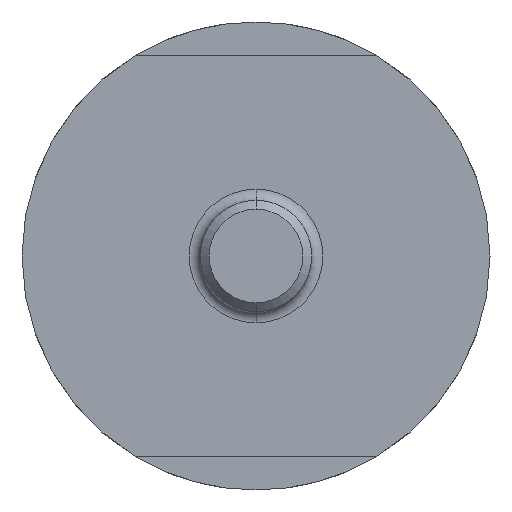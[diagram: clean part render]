
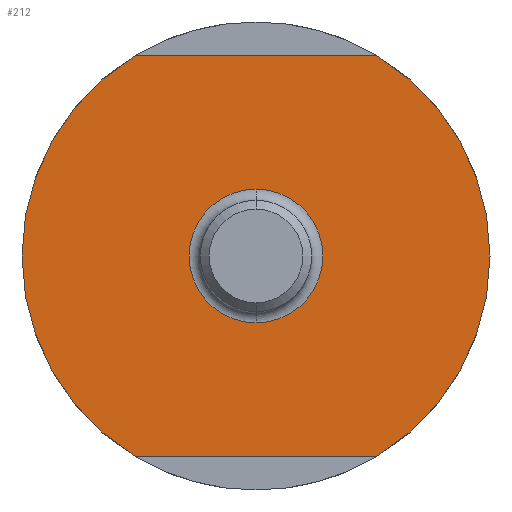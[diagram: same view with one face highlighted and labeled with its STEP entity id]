
A CAD part, front view. The second image highlights one B-rep face of the part: STEP entity #212.
In plain terms, the highlighted planar face has unit normal (0, -1, 0).
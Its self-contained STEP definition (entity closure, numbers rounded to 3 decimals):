
#2 = CARTESIAN_POINT ( 'NONE',  ( 0., 0., 0. ) ) ;
#7 = ORIENTED_EDGE ( 'NONE', *, *, #37, .F. ) ;
#37 = EDGE_CURVE ( 'NONE', #398, #556, #566, .T. ) ;
#48 = DIRECTION ( 'NONE',  ( 0., 0., 1. ) ) ;
#50 = CIRCLE ( 'NONE', #490, 6. ) ;
#53 = VERTEX_POINT ( 'NONE', #469 ) ;
#62 = CARTESIAN_POINT ( 'NONE',  ( 0., 0., -6. ) ) ;
#72 = CARTESIAN_POINT ( 'NONE',  ( 0., 0., 0. ) ) ;
#119 = DIRECTION ( 'NONE',  ( 0., 0., 1. ) ) ;
#128 = VECTOR ( 'NONE', #560, 1000. ) ;
#165 = EDGE_CURVE ( 'NONE', #570, #433, #499, .T. ) ;
#182 = EDGE_LOOP ( 'NONE', ( #315, #513 ) ) ;
#188 = AXIS2_PLACEMENT_3D ( 'NONE', #563, #477, #201 ) ;
#201 = DIRECTION ( 'NONE',  ( 0., 0., 1. ) ) ;
#207 = CARTESIAN_POINT ( 'NONE',  ( 10.817, 0., 18. ) ) ;
#210 = CARTESIAN_POINT ( 'NONE',  ( 0., 0., 0. ) ) ;
#211 = AXIS2_PLACEMENT_3D ( 'NONE', #210, #528, #258 ) ;
#212 = ADVANCED_FACE ( 'NONE', ( #461, #236 ), #287, .F. ) ;
#236 = FACE_BOUND ( 'NONE', #182, .T. ) ;
#238 = DIRECTION ( 'NONE',  ( 0., 1., 0. ) ) ;
#247 = CARTESIAN_POINT ( 'NONE',  ( 0., 0., -18. ) ) ;
#250 = ORIENTED_EDGE ( 'NONE', *, *, #289, .T. ) ;
#252 = CARTESIAN_POINT ( 'NONE',  ( 0., 0., 18. ) ) ;
#258 = DIRECTION ( 'NONE',  ( 0., 0., 1. ) ) ;
#287 = PLANE ( 'NONE',  #434 ) ;
#289 = EDGE_CURVE ( 'NONE', #570, #556, #497, .T. ) ;
#302 = CARTESIAN_POINT ( 'NONE',  ( -10.817, 0., 18. ) ) ;
#315 = ORIENTED_EDGE ( 'NONE', *, *, #407, .T. ) ;
#329 = VECTOR ( 'NONE', #384, 1000. ) ;
#330 = DIRECTION ( 'NONE',  ( 0., 1., 0. ) ) ;
#379 = EDGE_CURVE ( 'NONE', #398, #433, #452, .T. ) ;
#384 = DIRECTION ( 'NONE',  ( -1., 0., 0. ) ) ;
#397 = DIRECTION ( 'NONE',  ( 0., 1., 0. ) ) ;
#398 = VERTEX_POINT ( 'NONE', #207 ) ;
#406 = VERTEX_POINT ( 'NONE', #62 ) ;
#407 = EDGE_CURVE ( 'NONE', #53, #406, #437, .T. ) ;
#433 = VERTEX_POINT ( 'NONE', #302 ) ;
#434 = AXIS2_PLACEMENT_3D ( 'NONE', #2, #330, #48 ) ;
#437 = CIRCLE ( 'NONE', #211, 6. ) ;
#438 = CARTESIAN_POINT ( 'NONE',  ( 10.817, 0., -18. ) ) ;
#452 = LINE ( 'NONE', #252, #329 ) ;
#461 = FACE_OUTER_BOUND ( 'NONE', #550, .T. ) ;
#469 = CARTESIAN_POINT ( 'NONE',  ( 0., 0., 6. ) ) ;
#477 = DIRECTION ( 'NONE',  ( 0., 1., 0. ) ) ;
#478 = AXIS2_PLACEMENT_3D ( 'NONE', #509, #238, #553 ) ;
#490 = AXIS2_PLACEMENT_3D ( 'NONE', #72, #397, #119 ) ;
#497 = LINE ( 'NONE', #247, #128 ) ;
#499 = CIRCLE ( 'NONE', #188, 21. ) ;
#504 = ORIENTED_EDGE ( 'NONE', *, *, #379, .T. ) ;
#509 = CARTESIAN_POINT ( 'NONE',  ( 0., 0., 0. ) ) ;
#511 = EDGE_CURVE ( 'NONE', #406, #53, #50, .T. ) ;
#513 = ORIENTED_EDGE ( 'NONE', *, *, #511, .T. ) ;
#528 = DIRECTION ( 'NONE',  ( 0., 1., 0. ) ) ;
#536 = CARTESIAN_POINT ( 'NONE',  ( -10.817, 0., -18. ) ) ;
#550 = EDGE_LOOP ( 'NONE', ( #595, #250, #7, #504 ) ) ;
#553 = DIRECTION ( 'NONE',  ( 0., 0., 1. ) ) ;
#556 = VERTEX_POINT ( 'NONE', #438 ) ;
#560 = DIRECTION ( 'NONE',  ( 1., 0., 0. ) ) ;
#563 = CARTESIAN_POINT ( 'NONE',  ( 0., 0., 0. ) ) ;
#566 = CIRCLE ( 'NONE', #478, 21. ) ;
#570 = VERTEX_POINT ( 'NONE', #536 ) ;
#595 = ORIENTED_EDGE ( 'NONE', *, *, #165, .F. ) ;
